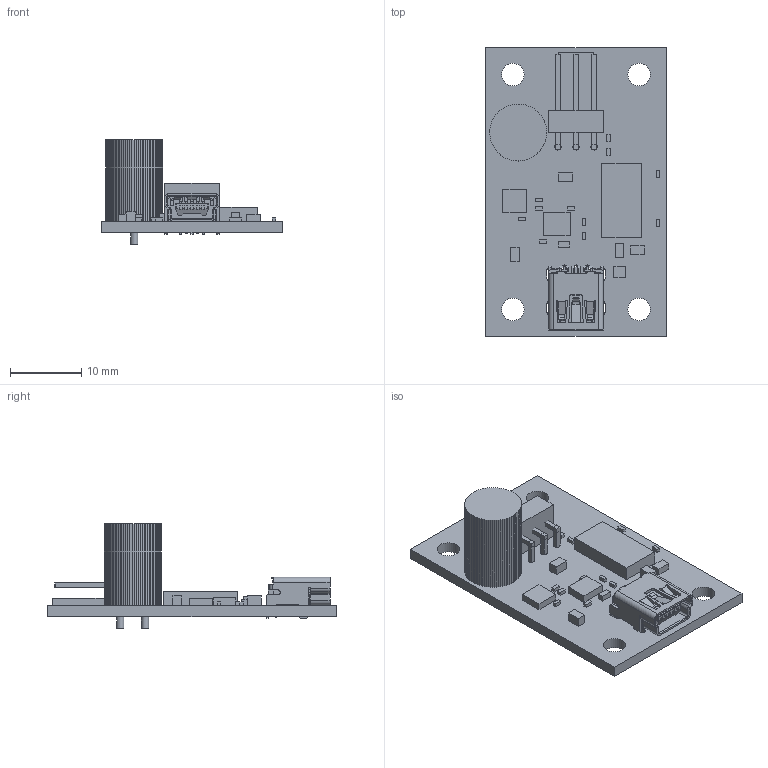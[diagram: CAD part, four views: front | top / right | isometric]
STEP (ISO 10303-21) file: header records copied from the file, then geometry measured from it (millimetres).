
FILE_DESCRIPTION(('Open CASCADE Model'),'2;1');
FILE_NAME('Open CASCADE Shape Model','2010-10-27T13:35:24',('Author'),( 'Open CASCADE'),'Open CASCADE STEP processor 6.2','Open CASCADE 6.2' ,'Unknown');
FILE_SCHEMA(('AUTOMOTIVE_DESIGN { 1 0 10303 214 1 1 1 1 }'));
Length unit declared in the file: millimetre
Products named in the file (62): PCB; Board; C7; 603631248; Extruded; C6; 603645840; R10; 489472832; L1; 603626384; J2; 548190519; Open CASCADE STEP translator 6.2 252.6.1.1; Open CASCADE STEP translator 6.2 252.6.1.2; U2; 489489984; C3; C2; 489473600; C1; 669269520; Cylinder; 489474112; C5; J1; 489476672; 489461312; 489476416; 489487680; R1; 603622032; R3; 489472960; R5; R6; R7; R8; 603622288; R9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
Assembly tree (75 placements, depth 4):
  PCB
    Board
    C7
      603631248
        Extruded
    C6
      603645840
        Extruded
    R10
      489472832
        Extruded
    L1
      603626384
        Extruded
    J2
      548190519
        Open CASCADE STEP translator 6.2 252.6.1.1
        Open CASCADE STEP translator 6.2 252.6.1.2
    U2
      489489984
        Extruded
    C3
      603645840
        Extruded
    C2
      489473600
        Extruded
    C1
      669269520  x2
        Cylinder
      489474112
        Extruded
    C5
      603645840
        Extruded
    J1
      489476672
        Extruded
      489461312
        Extruded
      489476416  x3
        Extruded
      489487680  x3
        Extruded
    R1
      603622032
        Extruded
    R3
      489472960
        Extruded
    R5
      603631248
        Extruded
    R6
      603645840
        Extruded
    R7
      603645840
        Extruded
    R8
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Bounding box: 25.4 x 40.64 x 14.7 mm (x, y, z)
Volume: 2623.1 mm3; surface area: 4110.9 mm2
Topology: 33 solids, 33 shells, 728 faces, 1961 edges, 1302 vertices
Faces by surface type: plane 618, cylinder 84, bspline 18, cone 8
Full cylindrical faces by diameter (mm): 0.8 x5, 0.889 x3, 1 x2, 1.067 x2, 3.175 x4
Entity records: 48361 total; most frequent: CARTESIAN_POINT 11783, DIRECTION 6462, LINE 4598, VECTOR 4598, ORIENTED_EDGE 3556, PCURVE 3556, DEFINITIONAL_REPRESENTATION 3556, EDGE_CURVE 1778
